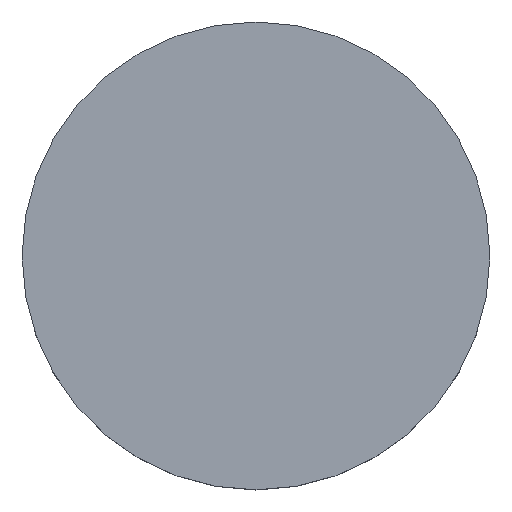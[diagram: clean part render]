
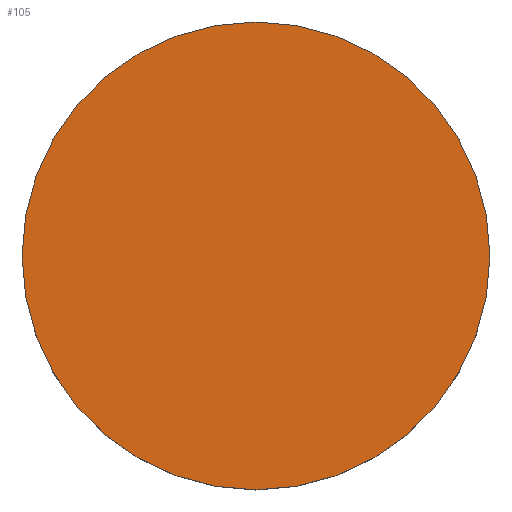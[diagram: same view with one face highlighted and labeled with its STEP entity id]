
A CAD part, top view. The second image highlights one B-rep face of the part: STEP entity #105.
In plain terms, the highlighted planar face has unit normal (0, 0, 1).
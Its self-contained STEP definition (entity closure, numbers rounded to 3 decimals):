
#21 = EDGE_CURVE('',#22,#22,#24,.T.);
#22 = VERTEX_POINT('',#23);
#23 = CARTESIAN_POINT('',(-390.,155.,233.));
#24 = SURFACE_CURVE('',#25,(#30,#42),.PCURVE_S1.);
#25 = CIRCLE('',#26,105.);
#26 = AXIS2_PLACEMENT_3D('',#27,#28,#29);
#27 = CARTESIAN_POINT('',(-495.,155.,233.));
#28 = DIRECTION('',(0.,0.,1.));
#29 = DIRECTION('',(1.,0.,-0.));
#30 = PCURVE('',#31,#36);
#31 = CYLINDRICAL_SURFACE('',#32,105.);
#32 = AXIS2_PLACEMENT_3D('',#33,#34,#35);
#33 = CARTESIAN_POINT('',(-495.,155.,197.));
#34 = DIRECTION('',(0.,0.,1.));
#35 = DIRECTION('',(1.,0.,-0.));
#36 = DEFINITIONAL_REPRESENTATION('',(#37),#41);
#37 = LINE('',#38,#39);
#38 = CARTESIAN_POINT('',(0.,36.));
#39 = VECTOR('',#40,1.);
#40 = DIRECTION('',(1.,0.));
#41 = ( GEOMETRIC_REPRESENTATION_CONTEXT(2) 
PARAMETRIC_REPRESENTATION_CONTEXT() REPRESENTATION_CONTEXT('2D SPACE',''
  ) );
#42 = PCURVE('',#43,#48);
#43 = PLANE('',#44);
#44 = AXIS2_PLACEMENT_3D('',#45,#46,#47);
#45 = CARTESIAN_POINT('',(-495.,155.,233.));
#46 = DIRECTION('',(0.,0.,1.));
#47 = DIRECTION('',(1.,0.,-0.));
#48 = DEFINITIONAL_REPRESENTATION('',(#49),#53);
#49 = CIRCLE('',#50,105.);
#50 = AXIS2_PLACEMENT_2D('',#51,#52);
#51 = CARTESIAN_POINT('',(0.,0.));
#52 = DIRECTION('',(1.,0.));
#53 = ( GEOMETRIC_REPRESENTATION_CONTEXT(2) 
PARAMETRIC_REPRESENTATION_CONTEXT() REPRESENTATION_CONTEXT('2D SPACE',''
  ) );
#105 = ADVANCED_FACE('',(#106),#43,.T.);
#106 = FACE_BOUND('',#107,.T.);
#107 = EDGE_LOOP('',(#108));
#108 = ORIENTED_EDGE('',*,*,#21,.T.);
